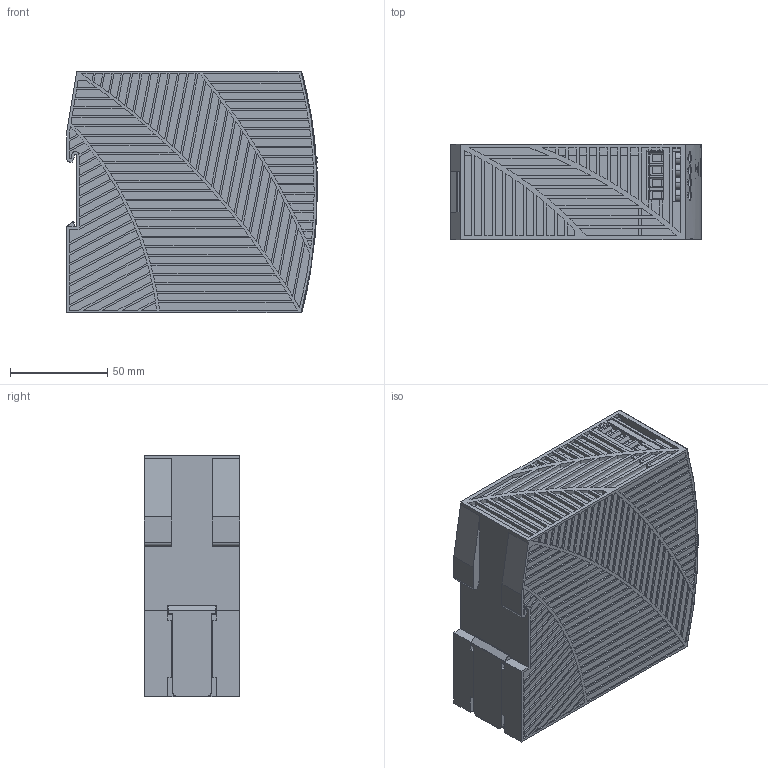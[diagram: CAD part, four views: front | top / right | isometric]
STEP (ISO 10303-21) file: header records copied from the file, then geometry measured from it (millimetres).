
FILE_DESCRIPTION (( 'STEP AP214' ), '1' );
FILE_NAME ('2D_PIC480.241C.DXF.STP', '2026-07-22T06:54:13', ( '' ), ( '' ), 'SwSTEP 2.0', 'SolidWorks 2024', '' );
FILE_SCHEMA (( 'AUTOMOTIVE_DESIGN' ));
Length unit declared in the file: millimetre
Products named in the file (11): 1045777_000_BRep_Config; 2D_PIC480.241C.DXF; 1045781_000; 1018315_000_BRep_Config; 1018445_000_BRep_Config; 1045779_000_Feat_Config; 1018322_000_Feat_Config; 1018449_000_BRep_Config; 1018093_000_BRep_Config; 1018455_000_Feat_Config; 1045782_000_EW-444_991_00
Assembly tree (10 placements, depth 2):
  2D_PIC480.241C.DXF
    1045777_000_BRep_Config
    1045779_000_Feat_Config
    1018093_000_BRep_Config
    1018322_000_Feat_Config
    1018315_000_BRep_Config
    1018455_000_Feat_Config
    1018445_000_BRep_Config
    1018449_000_BRep_Config
    1045781_000
    1045782_000_EW-444_991_00
Bounding box: 128.75 x 49 x 124 mm (x, y, z)
Volume: 752767.9 mm3; surface area: 198660.6 mm2
Topology: 10 solids, 11 shells, 1891 faces, 5158 edges, 3372 vertices
Faces by surface type: plane 1327, cylinder 442, bspline 60, cone 52, sphere 6, torus 4
Entity records: 76185 total; most frequent: CARTESIAN_POINT 24400, ORIENTED_EDGE 10280, DIRECTION 9432, EDGE_CURVE 5140, VECTOR 3868, LINE 3868, VERTEX_POINT 3372, AXIS2_PLACEMENT_3D 2782
